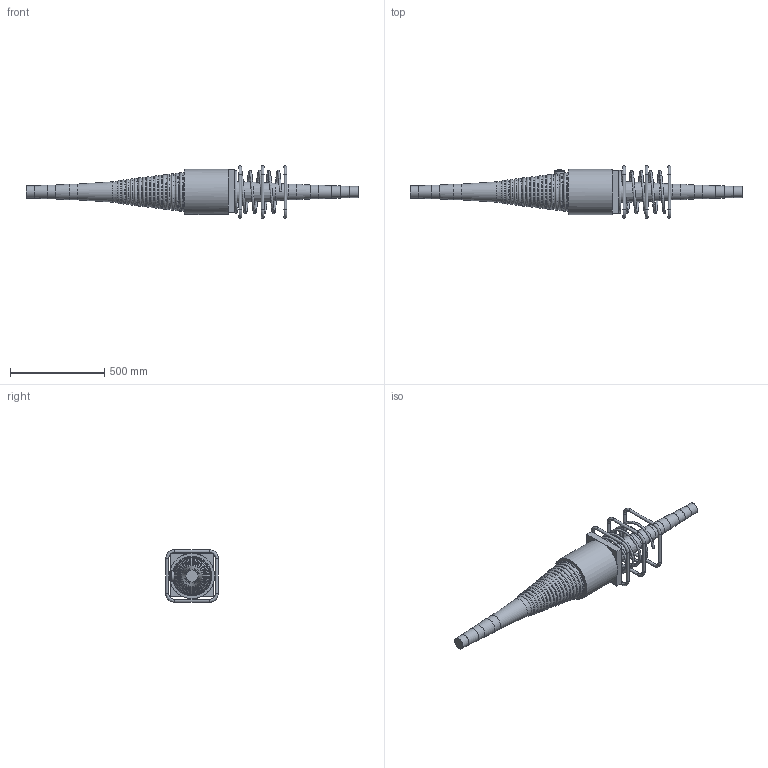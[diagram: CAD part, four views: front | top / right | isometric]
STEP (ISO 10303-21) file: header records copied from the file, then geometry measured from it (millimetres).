
FILE_DESCRIPTION(/* description */ (''),/* implementation_level */ '2;1');
FILE_NAME(/* name */ 'Z:\04 Publications\05 Give-out\BBR\6_3D_Models\BBR VT CONA CMI\BBR VT CONA CMI SP\00806\BBR VT CONA CMI SP 806_Coupler H Assembly_CS-34,28.stp',/* time_stamp */ '2017-05-10T08:46:46+02:00',/* author */ ('IP'),/* organization */ (''),/* preprocessor_version */ 'ST-DEVELOPER v16.1',/* originating_system */ 'Autodesk Inventor 2016',/* authorisation */ '');
FILE_SCHEMA (('AUTOMOTIVE_DESIGN { 1 0 10303 214 3 1 1 }'));
Length unit declared in the file: millimetre
Products named in the file (1): BBR VT CONA CMI SP 806_Coupler H Assembly_CS-34,28
Bounding box: 1765 x 280 x 280 mm (x, y, z)
Volume: 27314359.8 mm3; surface area: 1071164.6 mm2
Topology: 5 solids, 5 shells, 843 faces, 2184 edges, 1412 vertices
Faces by surface type: bspline 366, plane 291, cylinder 86, torus 72, cone 18, sphere 10
Full cylindrical faces by diameter (mm): 16 x12, 34 x1, 57 x1, 59 x1, 64 x2, 74 x2, 84 x2, 240 x1
Entity records: 34085 total; most frequent: CARTESIAN_POINT 15809, ORIENTED_EDGE 4156, DIRECTION 2755, EDGE_CURVE 2077, VERTEX_POINT 1407, EDGE_LOOP 1013, AXIS2_PLACEMENT_3D 931, LINE 893
